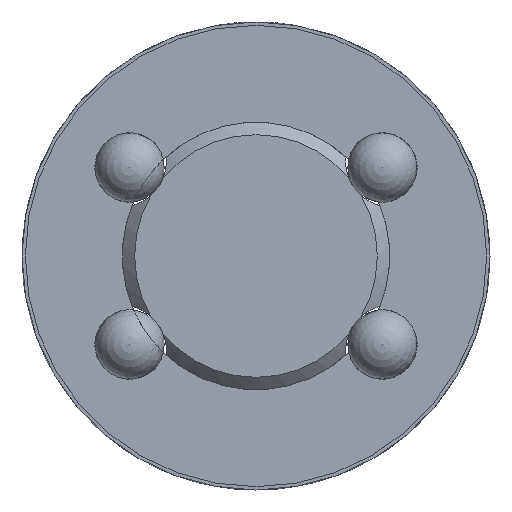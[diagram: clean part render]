
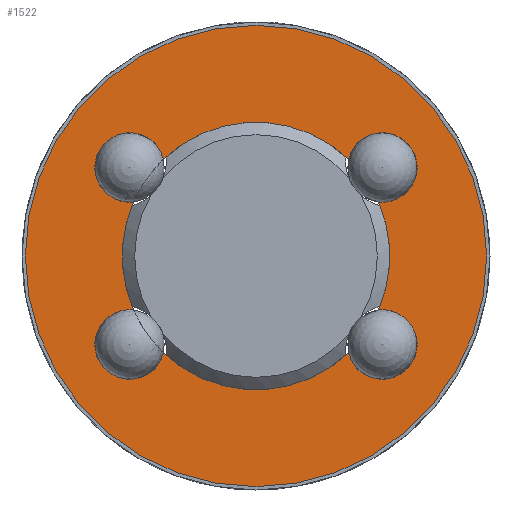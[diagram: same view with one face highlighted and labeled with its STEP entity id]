
A CAD part, left-side view. The second image highlights one B-rep face of the part: STEP entity #1522.
In plain terms, the highlighted planar face has unit normal (-1, 0, 0).
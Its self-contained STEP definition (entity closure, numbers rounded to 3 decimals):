
#53=PLANE('',#1653);
#613=ORIENTED_EDGE('',*,*,#906,.F.);
#614=ORIENTED_EDGE('',*,*,#961,.T.);
#615=ORIENTED_EDGE('',*,*,#912,.F.);
#616=ORIENTED_EDGE('',*,*,#833,.T.);
#617=ORIENTED_EDGE('',*,*,#911,.F.);
#618=ORIENTED_EDGE('',*,*,#962,.T.);
#619=ORIENTED_EDGE('',*,*,#907,.F.);
#620=ORIENTED_EDGE('',*,*,#883,.T.);
#621=ORIENTED_EDGE('',*,*,#959,.T.);
#833=EDGE_CURVE('',#1052,#1051,#1204,.T.);
#883=EDGE_CURVE('',#1092,#1091,#1211,.T.);
#906=EDGE_CURVE('',#1104,#1091,#1216,.F.);
#907=EDGE_CURVE('',#1092,#1105,#1217,.F.);
#911=EDGE_CURVE('',#1108,#1051,#1218,.F.);
#912=EDGE_CURVE('',#1052,#1109,#1219,.F.);
#959=EDGE_CURVE('',#1153,#1153,#1224,.T.);
#961=EDGE_CURVE('',#1104,#1109,#1226,.T.);
#962=EDGE_CURVE('',#1108,#1105,#1227,.T.);
#1051=VERTEX_POINT('',#2193);
#1052=VERTEX_POINT('',#2195);
#1091=VERTEX_POINT('',#2595);
#1092=VERTEX_POINT('',#2597);
#1104=VERTEX_POINT('',#2746);
#1105=VERTEX_POINT('',#2748);
#1108=VERTEX_POINT('',#2760);
#1109=VERTEX_POINT('',#2763);
#1153=VERTEX_POINT('',#2931);
#1204=CIRCLE('',#1618,1.56);
#1211=CIRCLE('',#1631,1.56);
#1216=CIRCLE('',#1642,6.);
#1217=CIRCLE('',#1643,6.);
#1218=CIRCLE('',#1644,6.);
#1219=CIRCLE('',#1645,6.);
#1224=CIRCLE('',#1651,10.35);
#1226=CIRCLE('',#1654,1.56);
#1227=CIRCLE('',#1655,1.56);
#1305=EDGE_LOOP('',(#613,#614,#615,#616,#617,#618,#619,#620));
#1306=EDGE_LOOP('',(#621));
#1423=FACE_BOUND('',#1305,.T.);
#1424=FACE_BOUND('',#1306,.T.);
#1522=ADVANCED_FACE('',(#1423,#1424),#53,.F.);
#1618=AXIS2_PLACEMENT_3D('',#2194,#1800,#1801);
#1631=AXIS2_PLACEMENT_3D('',#2596,#1844,#1845);
#1642=AXIS2_PLACEMENT_3D('',#2745,#1870,#1871);
#1643=AXIS2_PLACEMENT_3D('',#2747,#1872,#1873);
#1644=AXIS2_PLACEMENT_3D('',#2761,#1876,#1877);
#1645=AXIS2_PLACEMENT_3D('',#2762,#1878,#1879);
#1651=AXIS2_PLACEMENT_3D('',#2930,#1912,#1913);
#1653=AXIS2_PLACEMENT_3D('',#2934,#1916,#1917);
#1654=AXIS2_PLACEMENT_3D('',#2935,#1918,#1919);
#1655=AXIS2_PLACEMENT_3D('',#2936,#1920,#1921);
#1800=DIRECTION('',(1.,0.,0.));
#1801=DIRECTION('',(0.,0.819,0.574));
#1844=DIRECTION('',(1.,0.,0.));
#1845=DIRECTION('',(0.,-0.819,-0.574));
#1870=DIRECTION('',(1.,0.,0.));
#1871=DIRECTION('',(0.,0.,-1.));
#1872=DIRECTION('',(1.,0.,0.));
#1873=DIRECTION('',(0.,0.,-1.));
#1876=DIRECTION('',(1.,0.,0.));
#1877=DIRECTION('',(0.,0.,-1.));
#1878=DIRECTION('',(1.,0.,0.));
#1879=DIRECTION('',(0.,0.,-1.));
#1912=DIRECTION('',(-1.,0.,0.));
#1913=DIRECTION('',(0.,0.,1.));
#1916=DIRECTION('',(1.,0.,0.));
#1917=DIRECTION('',(0.,0.,-1.));
#1918=DIRECTION('',(1.,0.,0.));
#1919=DIRECTION('',(0.,0.819,-0.574));
#1920=DIRECTION('',(1.,0.,0.));
#1921=DIRECTION('',(0.,-0.819,0.574));
#2193=CARTESIAN_POINT('',(-17.5,-4.154,-4.329));
#2194=CARTESIAN_POINT('',(-17.5,-5.673,-3.972));
#2195=CARTESIAN_POINT('',(-17.5,-5.489,-2.423));
#2595=CARTESIAN_POINT('',(-17.5,4.154,4.329));
#2596=CARTESIAN_POINT('',(-17.5,5.673,3.972));
#2597=CARTESIAN_POINT('',(-17.5,5.489,2.423));
#2745=CARTESIAN_POINT('',(-17.5,0.,0.));
#2746=CARTESIAN_POINT('',(-17.5,-4.154,4.329));
#2747=CARTESIAN_POINT('',(-17.5,0.,0.));
#2748=CARTESIAN_POINT('',(-17.5,5.489,-2.423));
#2760=CARTESIAN_POINT('',(-17.5,4.154,-4.329));
#2761=CARTESIAN_POINT('',(-17.5,0.,0.));
#2762=CARTESIAN_POINT('',(-17.5,0.,0.));
#2763=CARTESIAN_POINT('',(-17.5,-5.489,2.423));
#2930=CARTESIAN_POINT('',(-17.5,0.,0.));
#2931=CARTESIAN_POINT('',(-17.5,0.,10.35));
#2934=CARTESIAN_POINT('',(-17.5,10.35,0.));
#2935=CARTESIAN_POINT('',(-17.5,-5.673,3.972));
#2936=CARTESIAN_POINT('',(-17.5,5.673,-3.972));
